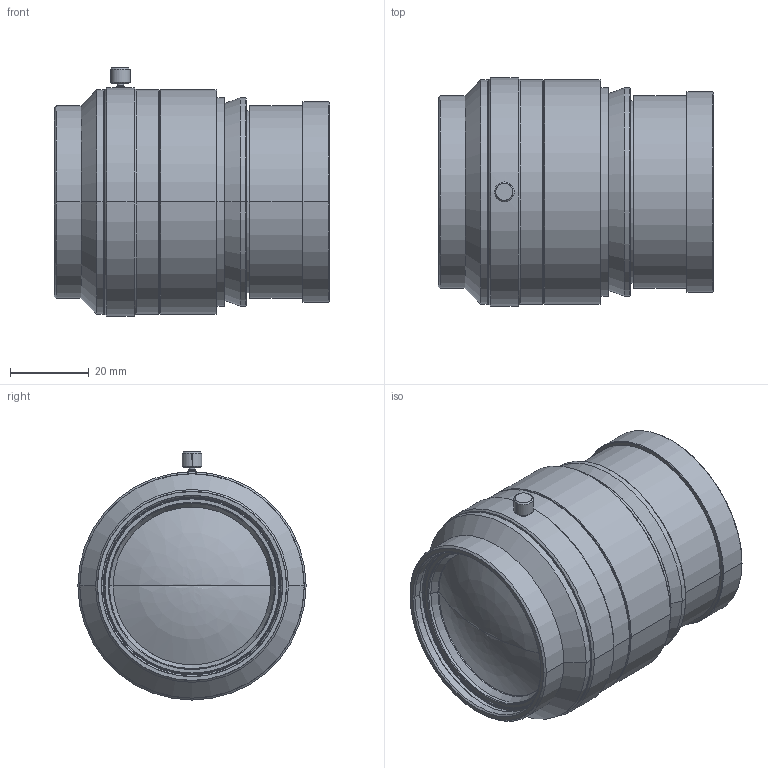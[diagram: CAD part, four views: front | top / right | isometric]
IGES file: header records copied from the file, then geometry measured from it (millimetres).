
Start section: SolidWorks IGES file using analytic representation for surfaces
Global section: file name: C:\Users\tsuji_vst\Documents\【図面】\_3D\00 VST\VS-L\VS-L12035-075_V.IGS; native system: SolidWorks 2015; preprocessor: SolidWorks 2015; author: tsuji_vst; date: 151110.091659; units: millimetre
Bounding box: 70 x 58 x 63.05 mm (x, y, z)
Surface area: 19670.9 mm2 (no closed solid volume)
Topology: 0 solids, 0 shells, 119 faces, 2454 edges, 2452 vertices
Faces by surface type: revolution 102, bspline 17
